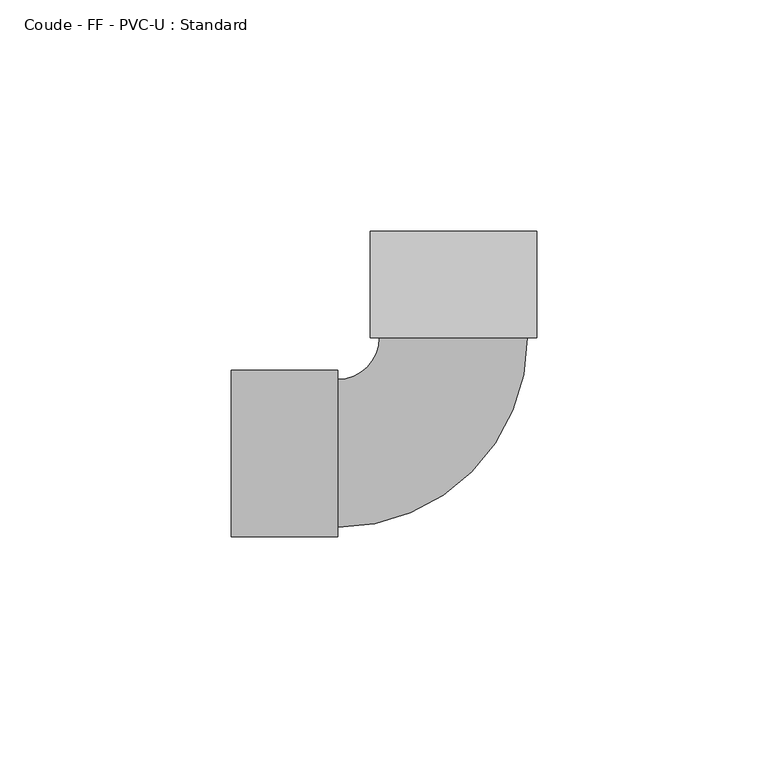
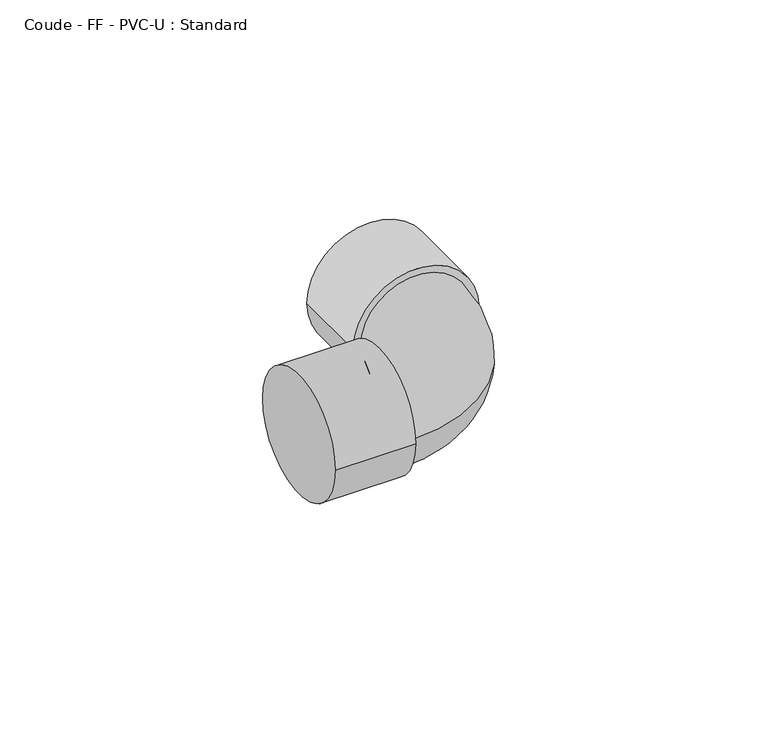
"""IFC4 building model written with IfcOpenShell, lengths in millimetres: pipe fitting geometry, Coude - FF - PVC-U : Standard."""

from ifc_helpers import new_model, si_unit, point, frame, origin, place, context, project, spatial, circle_curve, ellipse_curve, trimmed, source, transform, mapped, element, save
from ifc_brep_helpers import plane_surface, cylinder_surface, revolved_surface, advanced_brep


def coude_ff_pvc_u_standard_37c24cdd(model_context):
    return source(origin(), model_context, "Body", "AdvancedBrep", [
        advanced_brep(
        [(-48.0, -18.0, 0.0), (-48.0, 18.0, 0.0), (-25.0, -18.0, 0.0), (-25.0, 18.0, 0.0), (-25.0, -16.0, 0.0), (-25.0, 16.0, 0.0), (-16.0, 25.0, 0.0), (16.0, 25.0, 0.0), (18.0, 25.0, 0.0), (-18.0, 25.0, 0.0), (18.0, 48.0, 0.0), (-18.0, 48.0, 0.0)],
        [
            (0, 1, circle_curve(frame((-48.0, 0.0, 0.0), z_axis=(-1.0, 0.0, 0.0), x_axis=(0.0, 1.0, 0.0)), 18.0)),
            (1, 0, circle_curve(frame((-48.0, 0.0, 0.0), z_axis=(-1.0, 0.0, 0.0), x_axis=(0.0, 1.0, 0.0)), 18.0)),
            (2, 3, circle_curve(frame((-25.0, 0.0, 0.0), z_axis=(1.0, 0.0, 0.0), x_axis=(0.0, 1.0, 0.0)), 18.0)),
            (3, 2, circle_curve(frame((-25.0, 0.0, 0.0), z_axis=(1.0, 0.0, 0.0), x_axis=(0.0, 1.0, 0.0)), 18.0)),
            (4, 5, circle_curve(frame((-25.0, 0.0, 0.0), z_axis=(-1.0, 0.0, 0.0), x_axis=(0.0, 1.0, 0.0)), 16.0)),
            (5, 4, circle_curve(frame((-25.0, 0.0, 0.0), z_axis=(-1.0, 0.0, 0.0), x_axis=(0.0, 1.0, 0.0)), 16.0)),
            (0, 2),
            (3, 1),
            (6, 5, circle_curve(frame((-25.0, 25.0, 0.0), z_axis=(0.0, 0.0, -1.0), x_axis=(0.0, -1.0, 0.0)), 9.0)),
            (4, 7, circle_curve(frame((-25.0, 25.0, 0.0), z_axis=(0.0, 0.0, 1.0), x_axis=(0.0, -1.0, 0.0)), 41.0)),
            (7, 6, circle_curve(frame((0.0, 25.0, 0.0), z_axis=(0.0, -1.0, 0.0), x_axis=(-1.0, 0.0, 0.0)), 16.0)),
            (6, 7, circle_curve(frame((0.0, 25.0, 0.0), z_axis=(0.0, -1.0, 0.0), x_axis=(-1.0, 0.0, 0.0)), 16.0)),
            (8, 9, circle_curve(frame((0.0, 25.0, 0.0), z_axis=(0.0, -1.0, 0.0), x_axis=(-1.0, 0.0, 0.0)), 18.0)),
            (9, 8, circle_curve(frame((0.0, 25.0, 0.0), z_axis=(0.0, -1.0, 0.0), x_axis=(-1.0, 0.0, 0.0)), 18.0)),
            (10, 11, circle_curve(frame((0.0, 48.0, 0.0), z_axis=(0.0, 1.0, 0.0), x_axis=(-1.0, 0.0, 0.0)), 18.0)),
            (11, 10, circle_curve(frame((0.0, 48.0, 0.0), z_axis=(0.0, 1.0, 0.0), x_axis=(-1.0, 0.0, 0.0)), 18.0)),
            (8, 10),
            (11, 9),
        ],
        [
            plane_surface(frame((-48.0, 0.0, 0.0), z_axis=(-1.0, 0.0, 0.0), x_axis=(0.0, 0.0, 1.0))),
            plane_surface(frame((-25.0, 0.0, 0.0), z_axis=(1.0, 0.0, 0.0), x_axis=(0.0, 0.0, 1.0))),
            cylinder_surface(frame((-48.0, 0.0, 0.0), z_axis=(-1.0, 0.0, 0.0), x_axis=(0.0, 1.0, 0.0)), 18.0),
            revolved_surface(trimmed(ellipse_curve(frame((-25.0, 0.0, 0.0), z_axis=(-1.0, 0.0, 0.0), x_axis=(0.0, 1.0, 0.0)), 16.0, 16.0), [point((-25.0, -16.0, 0.0))], [point((-25.0, 16.0, 0.0))], True, "CARTESIAN"), (-25.0, 25.0, 0.0), (0.0, 0.0, 1.0)),
            revolved_surface(trimmed(ellipse_curve(frame((-25.0, 0.0, 0.0), z_axis=(-1.0, 0.0, 0.0), x_axis=(0.0, 1.0, 0.0)), 16.0, 16.0), [point((-25.0, 16.0, 0.0))], [point((-25.0, -16.0, 0.0))], True, "CARTESIAN"), (-25.0, 25.0, 0.0), (0.0, 0.0, 1.0)),
            plane_surface(frame((0.0, 25.0, 0.0), z_axis=(0.0, -1.0, 0.0), x_axis=(0.0, 0.0, 1.0))),
            plane_surface(frame((0.0, 48.0, 0.0), z_axis=(0.0, 1.0, 0.0), x_axis=(0.0, 0.0, 1.0))),
            cylinder_surface(frame((0.0, 25.0, 0.0), z_axis=(0.0, -1.0, 0.0), x_axis=(-1.0, 0.0, 0.0)), 18.0),
        ],
        [
            (0, [[1, 2]]),
            (1, [[3, 4], [5, 6]]),
            (2, [[-1, 7, -4, 8]]),
            (2, [[-2, -8, -3, -7]]),
            (3, [[9, -5, 10, 11]]),
            (4, [[-9, 12, -10, -6]]),
            (5, [[13, 14], [-11, -12]]),
            (6, [[15, 16]]),
            (7, [[-13, 17, -16, 18]]),
            (7, [[-14, -18, -15, -17]]),
        ],
    ),
    ])


if __name__ == "__main__":
    model = new_model("IFC4")
    model_context = context("Model", 3, world=origin())
    ifc_project = project(units=[si_unit("LENGTHUNIT", "METRE", prefix="MILLI")], contexts=[model_context])
    site = spatial("IfcSite", under=ifc_project)
    building = spatial("IfcBuilding", under=site)
    placement = place(None, origin())
    coude_ff_pvc_u_standard_shape = coude_ff_pvc_u_standard_37c24cdd(model_context)
    element("IfcPipeFitting", 1, ObjectType="Coude - FF - PVC-U : Standard", at=placement, inside=building, context=model_context, shape_type="MappedRepresentation", body=[
        mapped(coude_ff_pvc_u_standard_shape, transform((0.0, 0.0, 0.0), x_axis=(1.0, 0.0, 0.0), y_axis=(0.0, 1.0, 0.0), z_axis=(0.0, 0.0, 1.0))),
    ])
    save(model, "model.ifc")
